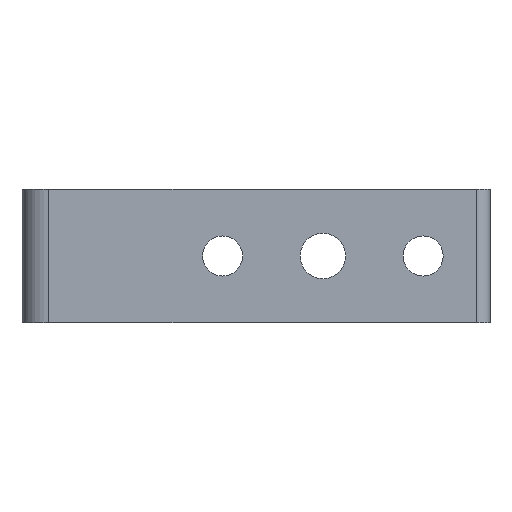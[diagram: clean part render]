
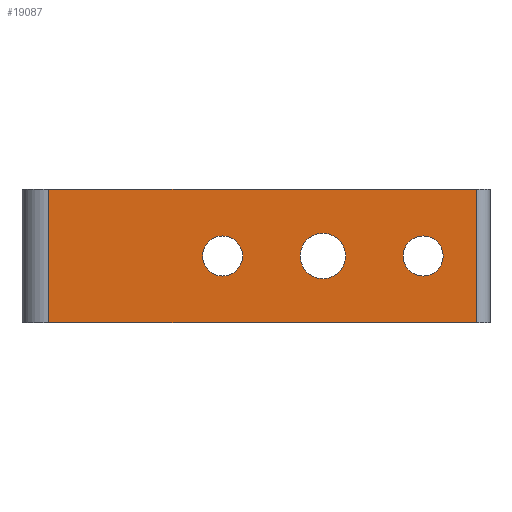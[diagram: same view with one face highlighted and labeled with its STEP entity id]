
A CAD part, front view. The second image highlights one B-rep face of the part: STEP entity #19087.
In plain terms, the highlighted planar face has unit normal (0, -1, 0).
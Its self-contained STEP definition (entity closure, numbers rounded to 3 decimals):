
#418 = VECTOR ( 'NONE', #26689, 1000. ) ;
#450 = CARTESIAN_POINT ( 'NONE',  ( 0., 0., -10. ) ) ;
#675 = VERTEX_POINT ( 'NONE', #4209 ) ;
#1106 = AXIS2_PLACEMENT_3D ( 'NONE', #23129, #33616, #17959 ) ;
#1107 = CARTESIAN_POINT ( 'NONE',  ( 60., 0., 3. ) ) ;
#1119 = EDGE_LOOP ( 'NONE', ( #21813, #1363 ) ) ;
#1363 = ORIENTED_EDGE ( 'NONE', *, *, #16892, .F. ) ;
#1605 = CARTESIAN_POINT ( 'NONE',  ( 68., 0., 10. ) ) ;
#1904 = CIRCLE ( 'NONE', #23515, 3. ) ;
#2059 = CARTESIAN_POINT ( 'NONE',  ( 68., 0., -10. ) ) ;
#2749 = CARTESIAN_POINT ( 'NONE',  ( 30., 0., 0. ) ) ;
#3717 = CARTESIAN_POINT ( 'NONE',  ( 0., 0., 10. ) ) ;
#4209 = CARTESIAN_POINT ( 'NONE',  ( 60., 0., -3. ) ) ;
#4301 = AXIS2_PLACEMENT_3D ( 'NONE', #21807, #6158, #24426 ) ;
#4805 = CARTESIAN_POINT ( 'NONE',  ( 45., 0., -3.4 ) ) ;
#5331 = CARTESIAN_POINT ( 'NONE',  ( 4., 0., 10. ) ) ;
#5393 = DIRECTION ( 'NONE',  ( 0., 0., -1. ) ) ;
#5573 = ORIENTED_EDGE ( 'NONE', *, *, #24725, .F. ) ;
#6158 = DIRECTION ( 'NONE',  ( 0., -1., 0. ) ) ;
#6445 = CARTESIAN_POINT ( 'NONE',  ( 45., 0., 3.4 ) ) ;
#6667 = DIRECTION ( 'NONE',  ( 1., 0., 0. ) ) ;
#6742 = CARTESIAN_POINT ( 'NONE',  ( 68., 0., 10. ) ) ;
#6809 = DIRECTION ( 'NONE',  ( 0., -1., 0. ) ) ;
#7132 = DIRECTION ( 'NONE',  ( 0., -1., 0. ) ) ;
#8218 = LINE ( 'NONE', #450, #418 ) ;
#9018 = VERTEX_POINT ( 'NONE', #1107 ) ;
#9149 = ORIENTED_EDGE ( 'NONE', *, *, #9227, .T. ) ;
#9172 = ORIENTED_EDGE ( 'NONE', *, *, #12702, .T. ) ;
#9202 = VERTEX_POINT ( 'NONE', #23616 ) ;
#9227 = EDGE_CURVE ( 'NONE', #31167, #9202, #23697, .T. ) ;
#9807 = CARTESIAN_POINT ( 'NONE',  ( 4., 0., 10. ) ) ;
#9850 = CIRCLE ( 'NONE', #33617, 3.4 ) ;
#9851 = EDGE_LOOP ( 'NONE', ( #9172, #23125, #12601, #9149 ) ) ;
#11272 = AXIS2_PLACEMENT_3D ( 'NONE', #13499, #31762, #16141 ) ;
#11328 = VERTEX_POINT ( 'NONE', #6742 ) ;
#11842 = EDGE_CURVE ( 'NONE', #17036, #11328, #25990, .T. ) ;
#12601 = ORIENTED_EDGE ( 'NONE', *, *, #25830, .F. ) ;
#12636 = CIRCLE ( 'NONE', #25070, 3.4 ) ;
#12702 = EDGE_CURVE ( 'NONE', #9202, #17036, #8218, .T. ) ;
#13499 = CARTESIAN_POINT ( 'NONE',  ( 60., 0., 0. ) ) ;
#13823 = FACE_OUTER_BOUND ( 'NONE', #9851, .T. ) ;
#14179 = EDGE_LOOP ( 'NONE', ( #14570, #5573 ) ) ;
#14570 = ORIENTED_EDGE ( 'NONE', *, *, #15272, .F. ) ;
#15089 = ORIENTED_EDGE ( 'NONE', *, *, #21888, .F. ) ;
#15157 = DIRECTION ( 'NONE',  ( 0., -1., 0. ) ) ;
#15272 = EDGE_CURVE ( 'NONE', #675, #9018, #21190, .T. ) ;
#15342 = PLANE ( 'NONE',  #1106 ) ;
#15939 = VECTOR ( 'NONE', #20962, 1000. ) ;
#16090 = EDGE_CURVE ( 'NONE', #20249, #26488, #12636, .T. ) ;
#16141 = DIRECTION ( 'NONE',  ( 0., 0., -1. ) ) ;
#16493 = EDGE_CURVE ( 'NONE', #24871, #27728, #33808, .T. ) ;
#16892 = EDGE_CURVE ( 'NONE', #27728, #24871, #23147, .T. ) ;
#17036 = VERTEX_POINT ( 'NONE', #2059 ) ;
#17959 = DIRECTION ( 'NONE',  ( 0., 0., 1. ) ) ;
#18208 = VECTOR ( 'NONE', #22554, 1000. ) ;
#19087 = ADVANCED_FACE ( 'NONE', ( #33850, #27709, #13823, #26916 ), #15342, .F. ) ;
#20249 = VERTEX_POINT ( 'NONE', #6445 ) ;
#20962 = DIRECTION ( 'NONE',  ( 0., 0., -1. ) ) ;
#21010 = CARTESIAN_POINT ( 'NONE',  ( 30., 0., 3. ) ) ;
#21023 = DIRECTION ( 'NONE',  ( 0., -1., 0. ) ) ;
#21190 = CIRCLE ( 'NONE', #11272, 3. ) ;
#21807 = CARTESIAN_POINT ( 'NONE',  ( 30., 0., 0. ) ) ;
#21813 = ORIENTED_EDGE ( 'NONE', *, *, #16493, .F. ) ;
#21888 = EDGE_CURVE ( 'NONE', #26488, #20249, #9850, .T. ) ;
#21903 = EDGE_LOOP ( 'NONE', ( #15089, #33442 ) ) ;
#22510 = CARTESIAN_POINT ( 'NONE',  ( 60., 0., 0. ) ) ;
#22554 = DIRECTION ( 'NONE',  ( 0., 0., 1. ) ) ;
#22834 = CARTESIAN_POINT ( 'NONE',  ( 45., 0., 0. ) ) ;
#23125 = ORIENTED_EDGE ( 'NONE', *, *, #11842, .T. ) ;
#23129 = CARTESIAN_POINT ( 'NONE',  ( 0., 0., 10. ) ) ;
#23147 = CIRCLE ( 'NONE', #4301, 3. ) ;
#23515 = AXIS2_PLACEMENT_3D ( 'NONE', #22510, #6809, #25098 ) ;
#23616 = CARTESIAN_POINT ( 'NONE',  ( 4., 0., -10. ) ) ;
#23697 = LINE ( 'NONE', #5331, #15939 ) ;
#24292 = VECTOR ( 'NONE', #6667, 1000. ) ;
#24426 = DIRECTION ( 'NONE',  ( 0., 0., -1. ) ) ;
#24725 = EDGE_CURVE ( 'NONE', #9018, #675, #1904, .T. ) ;
#24871 = VERTEX_POINT ( 'NONE', #28845 ) ;
#25070 = AXIS2_PLACEMENT_3D ( 'NONE', #30794, #15157, #33435 ) ;
#25090 = LINE ( 'NONE', #3717, #24292 ) ;
#25098 = DIRECTION ( 'NONE',  ( 0., 0., -1. ) ) ;
#25430 = DIRECTION ( 'NONE',  ( 0., 0., -1. ) ) ;
#25830 = EDGE_CURVE ( 'NONE', #31167, #11328, #25090, .T. ) ;
#25990 = LINE ( 'NONE', #1605, #18208 ) ;
#26488 = VERTEX_POINT ( 'NONE', #4805 ) ;
#26689 = DIRECTION ( 'NONE',  ( 1., 0., 0. ) ) ;
#26916 = FACE_BOUND ( 'NONE', #21903, .T. ) ;
#27709 = FACE_BOUND ( 'NONE', #14179, .T. ) ;
#27728 = VERTEX_POINT ( 'NONE', #21010 ) ;
#28845 = CARTESIAN_POINT ( 'NONE',  ( 30., 0., -3. ) ) ;
#29030 = AXIS2_PLACEMENT_3D ( 'NONE', #2749, #21023, #5393 ) ;
#30794 = CARTESIAN_POINT ( 'NONE',  ( 45., 0., 0. ) ) ;
#31167 = VERTEX_POINT ( 'NONE', #9807 ) ;
#31762 = DIRECTION ( 'NONE',  ( 0., -1., 0. ) ) ;
#33435 = DIRECTION ( 'NONE',  ( 0., 0., -1. ) ) ;
#33442 = ORIENTED_EDGE ( 'NONE', *, *, #16090, .F. ) ;
#33616 = DIRECTION ( 'NONE',  ( 0., 1., 0. ) ) ;
#33617 = AXIS2_PLACEMENT_3D ( 'NONE', #22834, #7132, #25430 ) ;
#33808 = CIRCLE ( 'NONE', #29030, 3. ) ;
#33850 = FACE_BOUND ( 'NONE', #1119, .T. ) ;
